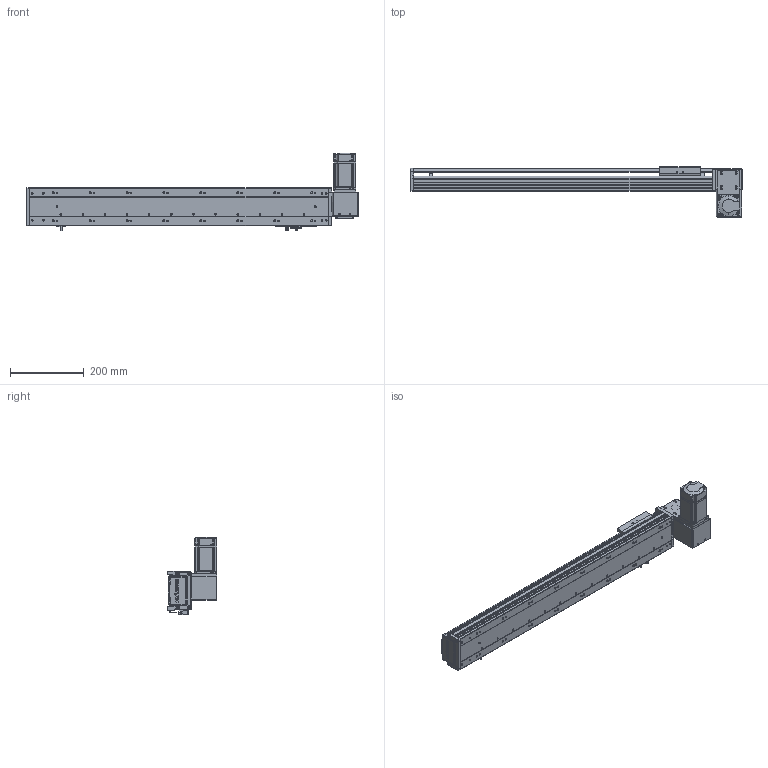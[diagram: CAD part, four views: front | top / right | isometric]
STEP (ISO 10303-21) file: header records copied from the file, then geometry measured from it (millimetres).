
FILE_DESCRIPTION (( 'STEP AP203' ), '1' );
FILE_NAME ('RY100-T-300-DR.SLDASM_600.step', '2024-04-25T03:22:20', ( '盈信电脑' ), ( '东莞市道滘镇水果街19号' ), 'SwSTEP 2.0', 'SolidWorks 2016', '' );
FILE_SCHEMA (( 'CONFIG_CONTROL_DESIGN' ));
Length unit declared in the file: millimetre
Products named in the file (16): 覜茼ん672; 侂狟200W萇儂; 1; RY100-T翋肮祭謫裔啣; RY100-T粣創揤踡裔; RY100-T-300-RK倰第奻裔_600; RY100-T-300-RK倰第菁釱_600; RY100-T肮祭謫臏賑輸; RY100綴裔啣; RY80-T肮祭謫狟殏俋欶; RY100-T左右折电机安装板; 滅袉蝶18-10; RY100-T肮祭謫翋盓傅釱; RY100俋离覜茼え; RY100-T-300-DR.SLDASM_600; RY100-T翋肮祭謫裔啣2
Assembly tree (19 placements, depth 3):
  RY100-T-300-DR.SLDASM_600
    RY100-T-300-RK倰第菁釱_600
    RY100-T-300-RK倰第奻裔_600
    RY100-T肮祭謫臏賑輸
    RY100綴裔啣
    覜茼ん672  x3
    RY100俋离覜茼え
    RY100-T肮祭謫翋盓傅釱
    RY100-T左右折电机安装板
    侂狟200W萇儂
      1
    RY100-T粣創揤踡裔
    滅袉蝶18-10  x2
    RY100-T翋肮祭謫裔啣2  x2
    RY100-T翋肮祭謫裔啣
    RY80-T肮祭謫狟殏俋欶
Bounding box: 900 x 135.5 x 209.7 mm (x, y, z)
Volume: 2000835.8 mm3; surface area: 810773.8 mm2
Topology: 18 solids, 18 shells, 2227 faces, 6192 edges, 4022 vertices
Faces by surface type: plane 1217, cylinder 799, cone 133, bspline 78
Entity records: 71347 total; most frequent: CARTESIAN_POINT 17246, ORIENTED_EDGE 11120, DIRECTION 10572, EDGE_CURVE 5560, VERTEX_POINT 3658, LINE 3602, VECTOR 3602, AXIS2_PLACEMENT_3D 3485
